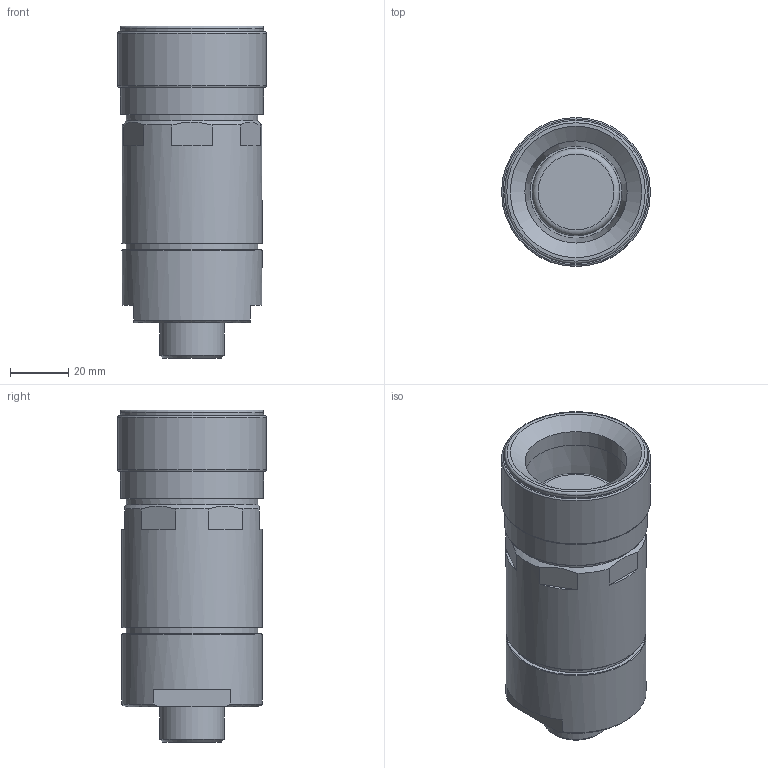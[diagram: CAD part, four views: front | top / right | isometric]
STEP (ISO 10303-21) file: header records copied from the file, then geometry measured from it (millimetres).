
FILE_DESCRIPTION(('STEP AP203'),'1');
FILE_NAME(').stp','2021-06-21T07:30:14',(' '),(' '),'Spatial InterOp 3D',' ',' ');
FILE_SCHEMA(('CONFIG_CONTROL_DESIGN'));
Length unit declared in the file: millimetre
Products named in the file (1): 1
Bounding box: 51 x 51 x 113.7 mm (x, y, z)
Volume: 147747.7 mm3; surface area: 30336.7 mm2
Topology: 1 solids, 1 shells, 65 faces, 133 edges, 83 vertices
Faces by surface type: plane 31, cylinder 14, cone 12, torus 8
Full cylindrical faces by diameter (mm): 11.731 x1, 16 x1, 17.531 x1, 22 x1, 28.5 x1, 30 x1, 35 x1, 45 x2, 48 x2, 49 x2, 51 x1
Entity records: 1614 total; most frequent: CARTESIAN_POINT 308, DIRECTION 282, ORIENTED_EDGE 196, AXIS2_PLACEMENT_3D 128, EDGE_LOOP 110, EDGE_CURVE 98, FACE_OUTER_BOUND 87, VERTEX_POINT 80
